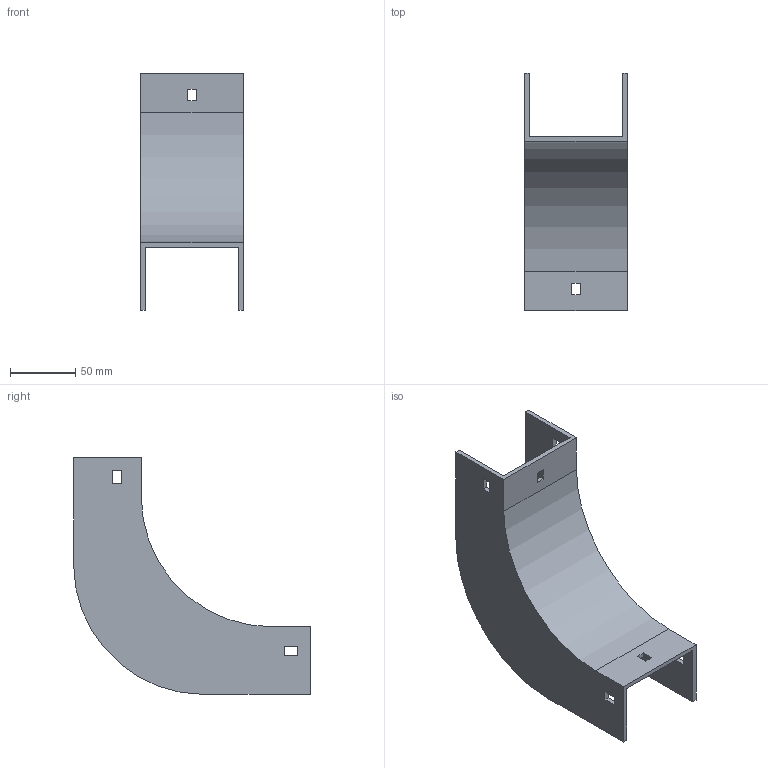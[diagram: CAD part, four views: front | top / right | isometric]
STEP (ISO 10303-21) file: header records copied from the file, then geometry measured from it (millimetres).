
FILE_DESCRIPTION (( 'STEP AP214' ), '1' );
FILE_NAME ('33F1B075.step', '2025-02-21T12:52:12', ( '' ), ( '' ), 'SwSTEP 2.0', 'SolidWorks 2023', '' );
FILE_SCHEMA (( 'AUTOMOTIVE_DESIGN' ));
Length unit declared in the file: millimetre
Products named in the file (1): 33F1B075
Bounding box: 79 x 182 x 182 mm (x, y, z)
Volume: 167575.3 mm3; surface area: 99910.6 mm2
Topology: 1 solids, 1 shells, 42 faces, 120 edges, 80 vertices
Faces by surface type: plane 38, cylinder 4
Entity records: 1399 total; most frequent: CARTESIAN_POINT 243, ORIENTED_EDGE 240, DIRECTION 214, EDGE_CURVE 120, VECTOR 112, LINE 112, VERTEX_POINT 80, EDGE_LOOP 54
